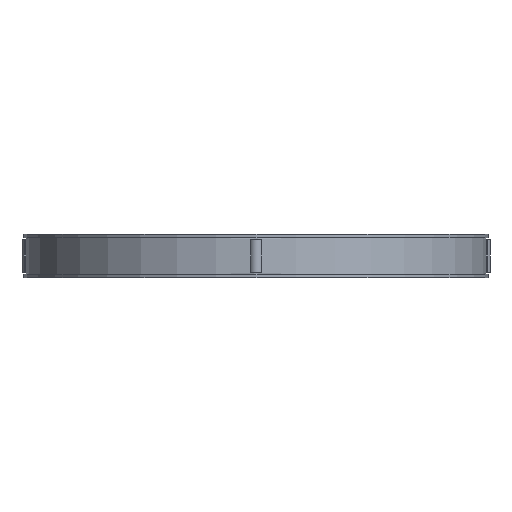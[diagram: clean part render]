
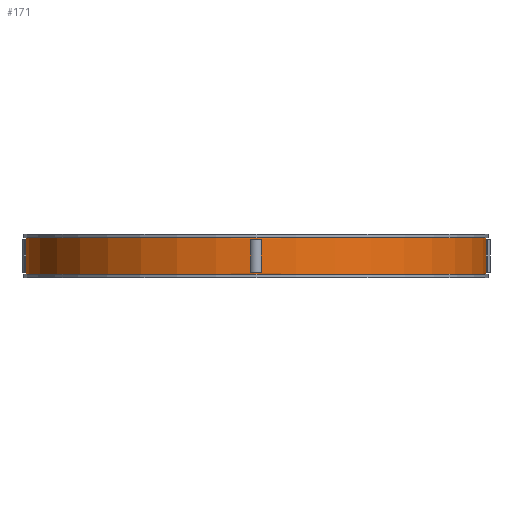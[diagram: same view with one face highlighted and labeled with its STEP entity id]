
A CAD part, front view. The second image highlights one B-rep face of the part: STEP entity #171.
In plain terms, the highlighted cylindrical face has radius 63 mm (diameter 126 mm), a full revolution.
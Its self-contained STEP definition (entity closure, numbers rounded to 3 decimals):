
#171=ADVANCED_FACE('',(#359,#360,#361,#362,#363,#364),#219,.T.);
#219=CYLINDRICAL_SURFACE('',#882,63.);
#231=LINE('',#1207,#295);
#232=LINE('',#1212,#296);
#233=LINE('',#1215,#297);
#234=LINE('',#1220,#298);
#235=LINE('',#1223,#299);
#236=LINE('',#1228,#300);
#237=LINE('',#1234,#301);
#238=LINE('',#1238,#302);
#295=VECTOR('',#966,1.);
#296=VECTOR('',#969,1.);
#297=VECTOR('',#972,1.);
#298=VECTOR('',#975,1.);
#299=VECTOR('',#978,1.);
#300=VECTOR('',#981,1.);
#301=VECTOR('',#986,1.);
#302=VECTOR('',#989,1.);
#359=FACE_BOUND('',#383,.T.);
#360=FACE_BOUND('',#384,.T.);
#361=FACE_BOUND('',#385,.T.);
#362=FACE_BOUND('',#386,.T.);
#363=FACE_BOUND('',#387,.T.);
#364=FACE_BOUND('',#388,.T.);
#383=EDGE_LOOP('',(#447));
#384=EDGE_LOOP('',(#448));
#385=EDGE_LOOP('',(#449,#450,#451,#452));
#386=EDGE_LOOP('',(#453,#454,#455,#456));
#387=EDGE_LOOP('',(#457,#458,#459,#460));
#388=EDGE_LOOP('',(#461,#462,#463,#464));
#447=ORIENTED_EDGE('',*,*,#727,.F.);
#448=ORIENTED_EDGE('',*,*,#728,.T.);
#449=ORIENTED_EDGE('',*,*,#729,.F.);
#450=ORIENTED_EDGE('',*,*,#730,.T.);
#451=ORIENTED_EDGE('',*,*,#731,.F.);
#452=ORIENTED_EDGE('',*,*,#732,.F.);
#453=ORIENTED_EDGE('',*,*,#733,.F.);
#454=ORIENTED_EDGE('',*,*,#734,.T.);
#455=ORIENTED_EDGE('',*,*,#735,.F.);
#456=ORIENTED_EDGE('',*,*,#736,.F.);
#457=ORIENTED_EDGE('',*,*,#737,.F.);
#458=ORIENTED_EDGE('',*,*,#738,.T.);
#459=ORIENTED_EDGE('',*,*,#739,.F.);
#460=ORIENTED_EDGE('',*,*,#740,.F.);
#461=ORIENTED_EDGE('',*,*,#741,.F.);
#462=ORIENTED_EDGE('',*,*,#742,.T.);
#463=ORIENTED_EDGE('',*,*,#743,.T.);
#464=ORIENTED_EDGE('',*,*,#744,.T.);
#655=VERTEX_POINT('',#1204);
#656=VERTEX_POINT('',#1206);
#657=VERTEX_POINT('',#1208);
#658=VERTEX_POINT('',#1209);
#659=VERTEX_POINT('',#1211);
#660=VERTEX_POINT('',#1213);
#661=VERTEX_POINT('',#1216);
#662=VERTEX_POINT('',#1217);
#663=VERTEX_POINT('',#1219);
#664=VERTEX_POINT('',#1221);
#665=VERTEX_POINT('',#1224);
#666=VERTEX_POINT('',#1225);
#667=VERTEX_POINT('',#1227);
#668=VERTEX_POINT('',#1229);
#669=VERTEX_POINT('',#1232);
#670=VERTEX_POINT('',#1233);
#671=VERTEX_POINT('',#1235);
#672=VERTEX_POINT('',#1237);
#727=EDGE_CURVE('',#655,#655,#831,.T.);
#728=EDGE_CURVE('',#656,#656,#832,.T.);
#729=EDGE_CURVE('',#657,#658,#231,.T.);
#730=EDGE_CURVE('',#657,#659,#833,.T.);
#731=EDGE_CURVE('',#660,#659,#232,.T.);
#732=EDGE_CURVE('',#658,#660,#834,.T.);
#733=EDGE_CURVE('',#661,#662,#233,.T.);
#734=EDGE_CURVE('',#661,#663,#835,.T.);
#735=EDGE_CURVE('',#664,#663,#234,.T.);
#736=EDGE_CURVE('',#662,#664,#836,.T.);
#737=EDGE_CURVE('',#665,#666,#235,.T.);
#738=EDGE_CURVE('',#665,#667,#837,.T.);
#739=EDGE_CURVE('',#668,#667,#236,.T.);
#740=EDGE_CURVE('',#666,#668,#838,.T.);
#741=EDGE_CURVE('',#669,#670,#839,.T.);
#742=EDGE_CURVE('',#669,#671,#237,.T.);
#743=EDGE_CURVE('',#671,#672,#840,.T.);
#744=EDGE_CURVE('',#672,#670,#238,.T.);
#831=CIRCLE('',#872,63.);
#832=CIRCLE('',#873,63.);
#833=CIRCLE('',#874,63.);
#834=CIRCLE('',#875,63.);
#835=CIRCLE('',#876,63.);
#836=CIRCLE('',#877,63.);
#837=CIRCLE('',#878,63.);
#838=CIRCLE('',#879,63.);
#839=CIRCLE('',#880,63.);
#840=CIRCLE('',#881,63.);
#872=AXIS2_PLACEMENT_3D('',#1203,#962,#963);
#873=AXIS2_PLACEMENT_3D('',#1205,#964,#965);
#874=AXIS2_PLACEMENT_3D('',#1210,#967,#968);
#875=AXIS2_PLACEMENT_3D('',#1214,#970,#971);
#876=AXIS2_PLACEMENT_3D('',#1218,#973,#974);
#877=AXIS2_PLACEMENT_3D('',#1222,#976,#977);
#878=AXIS2_PLACEMENT_3D('',#1226,#979,#980);
#879=AXIS2_PLACEMENT_3D('',#1230,#982,#983);
#880=AXIS2_PLACEMENT_3D('',#1231,#984,#985);
#881=AXIS2_PLACEMENT_3D('',#1236,#987,#988);
#882=AXIS2_PLACEMENT_3D('',#1239,#990,#991);
#962=DIRECTION('',(0.,0.,1.));
#963=DIRECTION('',(1.,0.,0.));
#964=DIRECTION('',(0.,0.,1.));
#965=DIRECTION('',(1.,0.,0.));
#966=DIRECTION('',(0.,0.,-1.));
#967=DIRECTION('',(0.,0.,1.));
#968=DIRECTION('',(1.,0.,0.));
#969=DIRECTION('',(0.,0.,1.));
#970=DIRECTION('',(0.,0.,1.));
#971=DIRECTION('',(1.,0.,0.));
#972=DIRECTION('',(0.,0.,-1.));
#973=DIRECTION('',(0.,0.,1.));
#974=DIRECTION('',(1.,0.,0.));
#975=DIRECTION('',(0.,0.,1.));
#976=DIRECTION('',(0.,0.,1.));
#977=DIRECTION('',(1.,0.,0.));
#978=DIRECTION('',(0.,0.,-1.));
#979=DIRECTION('',(0.,0.,1.));
#980=DIRECTION('',(1.,0.,0.));
#981=DIRECTION('',(0.,0.,1.));
#982=DIRECTION('',(0.,0.,1.));
#983=DIRECTION('',(1.,0.,0.));
#984=DIRECTION('',(0.,0.,-1.));
#985=DIRECTION('',(-1.,0.,0.));
#986=DIRECTION('',(0.,0.,-1.));
#987=DIRECTION('',(0.,0.,-1.));
#988=DIRECTION('',(-1.,0.,0.));
#989=DIRECTION('',(0.,0.,1.));
#990=DIRECTION('',(0.,0.,-1.));
#991=DIRECTION('',(-1.,0.,0.));
#1203=CARTESIAN_POINT('',(0.,0.,11.));
#1204=CARTESIAN_POINT('',(63.,0.,11.));
#1205=CARTESIAN_POINT('',(0.,0.,1.));
#1206=CARTESIAN_POINT('',(63.,0.,1.));
#1207=CARTESIAN_POINT('',(62.983,-1.471,12.));
#1208=CARTESIAN_POINT('',(62.983,-1.471,10.5));
#1209=CARTESIAN_POINT('',(62.983,-1.471,1.5));
#1210=CARTESIAN_POINT('',(0.,0.,10.5));
#1211=CARTESIAN_POINT('',(62.983,1.471,10.5));
#1212=CARTESIAN_POINT('',(62.983,1.471,12.));
#1213=CARTESIAN_POINT('',(62.983,1.471,1.5));
#1214=CARTESIAN_POINT('',(0.,0.,1.5));
#1215=CARTESIAN_POINT('',(1.471,62.983,12.));
#1216=CARTESIAN_POINT('',(1.471,62.983,10.5));
#1217=CARTESIAN_POINT('',(1.471,62.983,1.5));
#1218=CARTESIAN_POINT('',(0.,0.,10.5));
#1219=CARTESIAN_POINT('',(-1.471,62.983,10.5));
#1220=CARTESIAN_POINT('',(-1.471,62.983,12.));
#1221=CARTESIAN_POINT('',(-1.471,62.983,1.5));
#1222=CARTESIAN_POINT('',(0.,0.,1.5));
#1223=CARTESIAN_POINT('',(-62.983,1.471,12.));
#1224=CARTESIAN_POINT('',(-62.983,1.471,10.5));
#1225=CARTESIAN_POINT('',(-62.983,1.471,1.5));
#1226=CARTESIAN_POINT('',(0.,0.,10.5));
#1227=CARTESIAN_POINT('',(-62.983,-1.471,10.5));
#1228=CARTESIAN_POINT('',(-62.983,-1.471,12.));
#1229=CARTESIAN_POINT('',(-62.983,-1.471,1.5));
#1230=CARTESIAN_POINT('',(0.,0.,1.5));
#1231=CARTESIAN_POINT('',(0.,0.,10.5));
#1232=CARTESIAN_POINT('',(1.471,-62.983,10.5));
#1233=CARTESIAN_POINT('',(-1.471,-62.983,10.5));
#1234=CARTESIAN_POINT('',(1.471,-62.983,12.));
#1235=CARTESIAN_POINT('',(1.471,-62.983,1.5));
#1236=CARTESIAN_POINT('',(0.,0.,1.5));
#1237=CARTESIAN_POINT('',(-1.471,-62.983,1.5));
#1238=CARTESIAN_POINT('',(-1.471,-62.983,12.));
#1239=CARTESIAN_POINT('',(0.,0.,12.));
